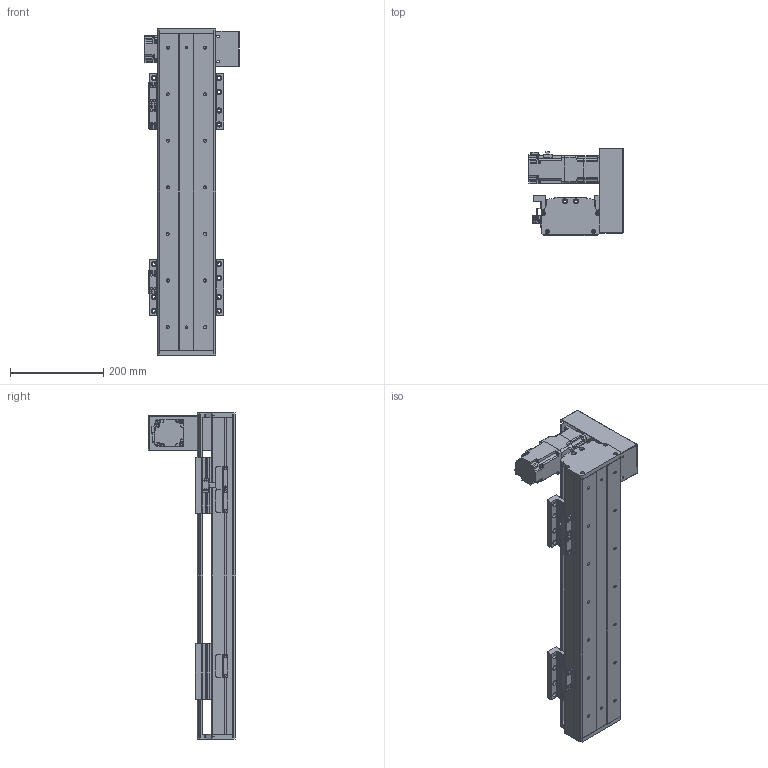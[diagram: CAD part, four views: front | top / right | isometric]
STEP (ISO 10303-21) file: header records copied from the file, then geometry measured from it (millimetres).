
FILE_DESCRIPTION(/* description */ (''),/* implementation_level */ '2;1');
FILE_NAME(/* name */ 'C:\Users\PC\Desktop\3D도면\STEP\DSB125-UR2G-W0400-L.stp',/* time_stamp */ '2018-06-19T16:47:30+09:00',/* author */ ('PC'),/* organization */ (''),/* preprocessor_version */ 'ST-DEVELOPER v16.5',/* originating_system */ 'Autodesk Inventor 2017',/* authorisation */ '');
FILE_SCHEMA (('AUTOMOTIVE_DESIGN { 1 0 10303 214 3 1 1 }'));
Length unit declared in the file: millimetre
Products named in the file (12): DSB125-UL2G-W0400-R_MIR; DSB125-BASE_MIR; DSB125-UP COVER_MIR; DSB125-FRONT COVER_MIR; DSB125-REAR COVER_MIR; hg-kr23__MIR; ab0601-p0401200402_MIR; 13-BELT COVER_MIR; DSR125-SENSOR DOG_MIR; SENSOR BRACKET(EE-SX674A)_MIR; pm-y65_step_MIR; DSB125-TABLE(MSB15S)_MIR
Assembly tree (16 placements, depth 2):
  DSB125-UL2G-W0400-R_MIR
    DSB125-BASE_MIR
    DSB125-UP COVER_MIR
    DSB125-FRONT COVER_MIR
    DSB125-REAR COVER_MIR
    hg-kr23__MIR
    ab0601-p0401200402_MIR
    13-BELT COVER_MIR
    DSR125-SENSOR DOG_MIR
    SENSOR BRACKET(EE-SX674A)_MIR  x3
    pm-y65_step_MIR  x3
    DSB125-TABLE(MSB15S)_MIR  x2
Bounding box: 202.1 x 187 x 700 mm (x, y, z)
Volume: 3135847.2 mm3; surface area: 906723.9 mm2
Topology: 17 solids, 17 shells, 1639 faces, 4450 edges, 2936 vertices
Faces by surface type: plane 903, cylinder 620, cone 104, sphere 8, torus 4
Full cylindrical faces by diameter (mm): 2.459 x20, 3.242 x16, 3.5 x6, 4 x1, 4.134 x16, 4.2 x4, 4.3 x1, 4.5 x50, 4.917 x20, 5 x22, 5.3 x1, 5.5 x4, 5.6 x8, 5.8 x4, 5.9 x8, 6 x4, 6.6 x22, 6.647 x14, 7.5 x32, 8.5 x8, 8.7 x1, 11 x22, 14 x1, 16 x2, 17 x1, 20 x1, 47 x1, 50 x3
Entity records: 35549 total; most frequent: CARTESIAN_POINT 6423, DIRECTION 6026, ORIENTED_EDGE 5434, EDGE_CURVE 2717, AXIS2_PLACEMENT_3D 2201, VERTEX_POINT 1926, EDGE_LOOP 1629, LINE 1624
